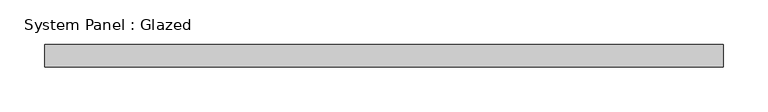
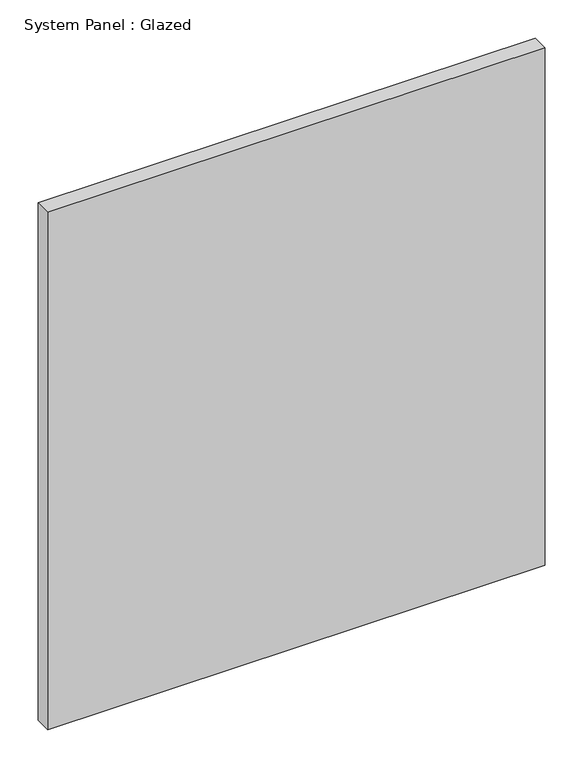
"""IFC4 building model written with IfcOpenShell, lengths in millimetres: plate geometry, System Panel : Glazed."""

from ifc_helpers import new_model, si_unit, origin, origin_with_axes, place, context, project, spatial, polyline, outline, extrude, source, transform, mapped, element, save


def system_panel_glazed_52054b90(model_context):
    return source(origin(), model_context, "Body", "SweptSolid", [
        extrude(outline(polyline([(377.5, 24.5), (-377.5, 24.5), (-377.5, 49.5), (377.5, 49.5), (377.5, 24.5)])), origin_with_axes(), (0.0, 0.0, 1.0), 830.0),
    ])


if __name__ == "__main__":
    model = new_model("IFC4")
    model_context = context("Model", 3, world=origin())
    ifc_project = project(units=[si_unit("LENGTHUNIT", "METRE", prefix="MILLI")], contexts=[model_context])
    site = spatial("IfcSite", under=ifc_project)
    building = spatial("IfcBuilding", under=site)
    placement = place(None, origin())
    system_panel_glazed_shape = system_panel_glazed_52054b90(model_context)
    element("IfcPlate", 1, ObjectType="System Panel : Glazed", at=placement, inside=building, context=model_context, shape_type="MappedRepresentation", body=[
        mapped(system_panel_glazed_shape, transform((0.0, 0.0, 0.0), x_axis=(1.0, 0.0, 0.0), y_axis=(0.0, 1.0, 0.0), z_axis=(0.0, 0.0, 1.0))),
    ])
    save(model, "model.ifc")
